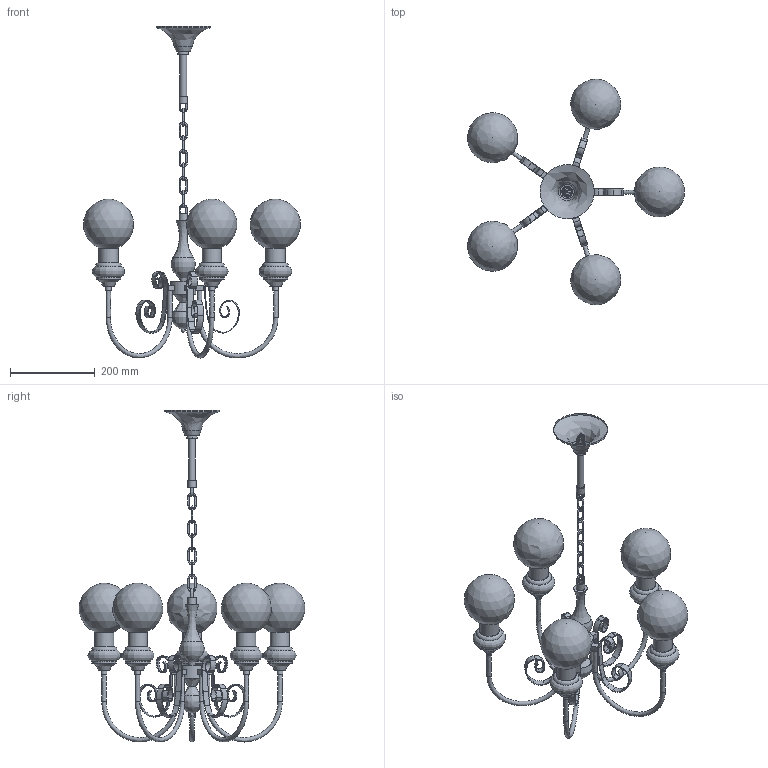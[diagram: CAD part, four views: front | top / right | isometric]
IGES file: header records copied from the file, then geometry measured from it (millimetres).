
Global section: file name: Z:\; native system: Rhinoceros ( Nov 10 2025 ); preprocessor: Trout Lake IGES 012 Nov 10 2025; date: 260612.094435; units: millimetre
Bounding box: 513.31 x 533.19 x 785.59 mm (x, y, z)
Surface area: 629475.3 mm2 (no closed solid volume)
Topology: 0 solids, 0 shells, 703 faces, 2762 edges, 2626 vertices
Faces by surface type: bspline 703
